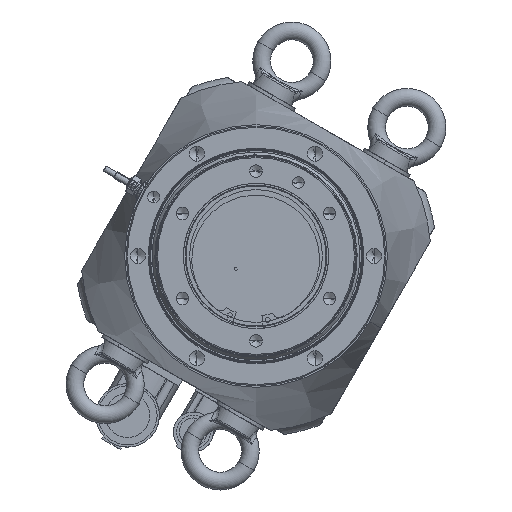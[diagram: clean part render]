
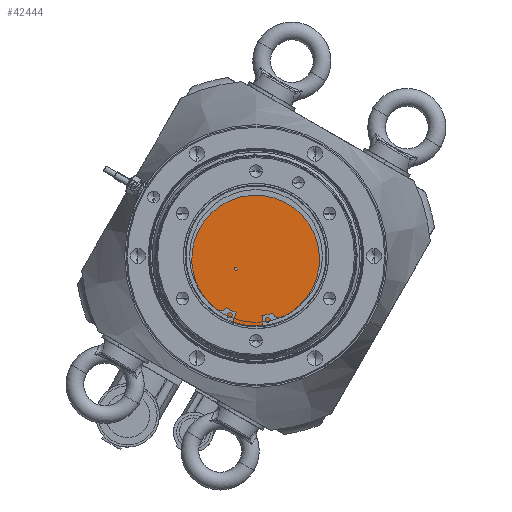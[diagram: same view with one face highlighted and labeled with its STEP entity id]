
A CAD part, front view. The second image highlights one B-rep face of the part: STEP entity #42444.
In plain terms, the highlighted planar face has unit normal (0, -1, 0).
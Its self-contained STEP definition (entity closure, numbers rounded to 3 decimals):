
#645 = AXIS2_PLACEMENT_3D ( 'NONE', #45476, #9886, #5751 ) ;
#2317 = EDGE_CURVE ( 'NONE', #11827, #36036, #18455, .T. ) ;
#2880 = DIRECTION ( 'NONE',  ( 0., 1., 0. ) ) ;
#4418 = CIRCLE ( 'NONE', #645, 1. ) ;
#5751 = DIRECTION ( 'NONE',  ( 0.092, 0., 0.996 ) ) ;
#8509 = DIRECTION ( 'NONE',  ( 0., 1., 0. ) ) ;
#9886 = DIRECTION ( 'NONE',  ( 0., 1., 0. ) ) ;
#11113 = AXIS2_PLACEMENT_3D ( 'NONE', #26362, #44949, #35753 ) ;
#11827 = VERTEX_POINT ( 'NONE', #48003 ) ;
#12329 = EDGE_CURVE ( 'NONE', #36036, #11827, #4418, .T. ) ;
#13053 = CARTESIAN_POINT ( 'NONE',  ( 0., -49.5, 0. ) ) ;
#15737 = VERTEX_POINT ( 'NONE', #25977 ) ;
#15800 = CARTESIAN_POINT ( 'NONE',  ( -13.928, -49.5, -9.751 ) ) ;
#18455 = CIRCLE ( 'NONE', #51393, 1. ) ;
#18497 = ORIENTED_EDGE ( 'NONE', *, *, #2317, .T. ) ;
#18651 = AXIS2_PLACEMENT_3D ( 'NONE', #48797, #8509, #44340 ) ;
#20764 = ORIENTED_EDGE ( 'NONE', *, *, #12329, .T. ) ;
#25977 = CARTESIAN_POINT ( 'NONE',  ( -4.377, -49.5, -47.298 ) ) ;
#26134 = AXIS2_PLACEMENT_3D ( 'NONE', #13053, #35625, #29783 ) ;
#26362 = CARTESIAN_POINT ( 'NONE',  ( 0., -49.5, 0. ) ) ;
#28592 = ORIENTED_EDGE ( 'NONE', *, *, #53635, .F. ) ;
#28784 = VERTEX_POINT ( 'NONE', #33214 ) ;
#29783 = DIRECTION ( 'NONE',  ( 0.092, 0., 0.996 ) ) ;
#30458 = DIRECTION ( 'NONE',  ( 0.092, 0., 0.996 ) ) ;
#31082 = FACE_OUTER_BOUND ( 'NONE', #41263, .T. ) ;
#33214 = CARTESIAN_POINT ( 'NONE',  ( 4.377, -49.5, 47.298 ) ) ;
#34525 = CIRCLE ( 'NONE', #11113, 47.5 ) ;
#35173 = PLANE ( 'NONE',  #18651 ) ;
#35625 = DIRECTION ( 'NONE',  ( 0., 1., 0. ) ) ;
#35753 = DIRECTION ( 'NONE',  ( 0.092, 0., 0.996 ) ) ;
#36036 = VERTEX_POINT ( 'NONE', #15800 ) ;
#39026 = ORIENTED_EDGE ( 'NONE', *, *, #44457, .F. ) ;
#39913 = FACE_BOUND ( 'NONE', #54743, .T. ) ;
#41263 = EDGE_LOOP ( 'NONE', ( #28592, #39026 ) ) ;
#42444 = ADVANCED_FACE ( 'NONE', ( #31082, #39913 ), #35173, .F. ) ;
#44340 = DIRECTION ( 'NONE',  ( 0.092, 0., 0.996 ) ) ;
#44457 = EDGE_CURVE ( 'NONE', #28784, #15737, #34525, .T. ) ;
#44949 = DIRECTION ( 'NONE',  ( 0., 1., 0. ) ) ;
#45476 = CARTESIAN_POINT ( 'NONE',  ( -13.836, -49.5, -8.755 ) ) ;
#48003 = CARTESIAN_POINT ( 'NONE',  ( -13.744, -49.5, -7.759 ) ) ;
#48797 = CARTESIAN_POINT ( 'NONE',  ( 0., -49.5, 0. ) ) ;
#51393 = AXIS2_PLACEMENT_3D ( 'NONE', #51979, #2880, #30458 ) ;
#51979 = CARTESIAN_POINT ( 'NONE',  ( -13.836, -49.5, -8.755 ) ) ;
#53635 = EDGE_CURVE ( 'NONE', #15737, #28784, #56210, .T. ) ;
#54743 = EDGE_LOOP ( 'NONE', ( #20764, #18497 ) ) ;
#56210 = CIRCLE ( 'NONE', #26134, 47.5 ) ;
